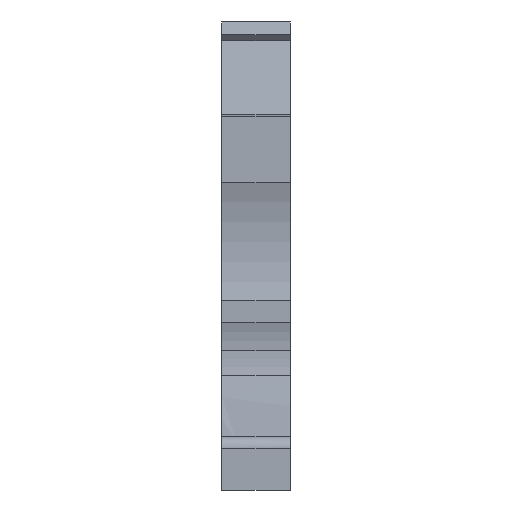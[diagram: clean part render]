
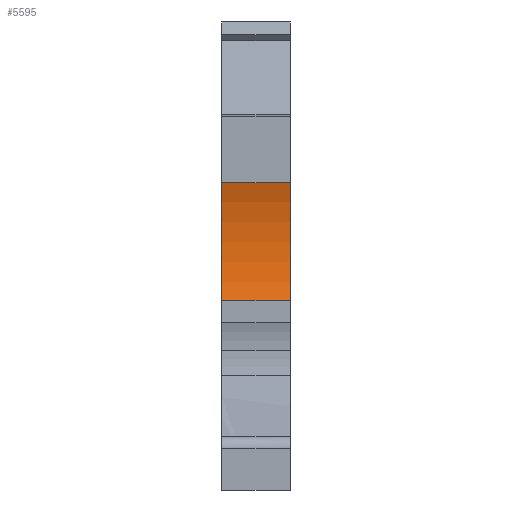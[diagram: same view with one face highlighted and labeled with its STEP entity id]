
A CAD part, left-side view. The second image highlights one B-rep face of the part: STEP entity #5595.
In plain terms, the highlighted cylindrical face has radius 14.5 mm (diameter 29 mm), a partial arc.
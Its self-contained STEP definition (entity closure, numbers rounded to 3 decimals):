
#42=CARTESIAN_POINT('',(-41.5,5.15,8.247));
#43=VERTEX_POINT('',#42);
#50=CARTESIAN_POINT('',(-40.799,5.15,12.7));
#51=VERTEX_POINT('',#50);
#52=CARTESIAN_POINT('',(-55.299,5.15,12.7));
#53=DIRECTION('',(-0.,1.,-0.));
#54=DIRECTION('',(-1.,-0.,0.));
#55=AXIS2_PLACEMENT_3D('',#52,#53,#54);
#56=CIRCLE('',#55,14.5);
#57=EDGE_CURVE('',#51,#43,#56,.T.);
#59=CARTESIAN_POINT('',(-41.5,5.15,17.153));
#60=VERTEX_POINT('',#59);
#61=CARTESIAN_POINT('',(-55.299,5.15,12.7));
#62=DIRECTION('',(-0.,1.,-0.));
#63=DIRECTION('',(-1.,-0.,0.));
#64=AXIS2_PLACEMENT_3D('',#61,#62,#63);
#65=CIRCLE('',#64,14.5);
#66=EDGE_CURVE('',#60,#51,#65,.T.);
#2521=CARTESIAN_POINT('',(-41.5,0.,8.247));
#2522=VERTEX_POINT('',#2521);
#2529=CARTESIAN_POINT('',(-41.5,5.15,8.247));
#2530=DIRECTION('',(-0.,-1.,-0.));
#2531=VECTOR('',#2530,5.15);
#2532=LINE('',#2529,#2531);
#2533=EDGE_CURVE('',#43,#2522,#2532,.T.);
#2864=CARTESIAN_POINT('',(-40.799,0.,12.7));
#2865=VERTEX_POINT('',#2864);
#2866=CARTESIAN_POINT('',(-55.299,0.,12.7));
#2867=DIRECTION('',(-0.,1.,-0.));
#2868=DIRECTION('',(-1.,-0.,0.));
#2869=AXIS2_PLACEMENT_3D('',#2866,#2867,#2868);
#2870=CIRCLE('',#2869,14.5);
#2871=EDGE_CURVE('',#2865,#2522,#2870,.T.);
#3332=CARTESIAN_POINT('',(-41.5,0.,17.153));
#3333=VERTEX_POINT('',#3332);
#3340=CARTESIAN_POINT('',(-55.299,-0.,12.7));
#3341=DIRECTION('',(-0.,1.,-0.));
#3342=DIRECTION('',(-1.,-0.,0.));
#3343=AXIS2_PLACEMENT_3D('',#3340,#3341,#3342);
#3344=CIRCLE('',#3343,14.5);
#3345=EDGE_CURVE('',#3333,#2865,#3344,.T.);
#5577=CARTESIAN_POINT('',(-55.299,-0.515,12.7));
#5578=DIRECTION('',(0.,-1.,0.));
#5579=DIRECTION('',(-1.,-0.,0.));
#5580=AXIS2_PLACEMENT_3D('',#5577,#5578,#5579);
#5581=CYLINDRICAL_SURFACE('',#5580,14.5);
#5582=ORIENTED_EDGE('',*,*,#66,.T.);
#5583=ORIENTED_EDGE('',*,*,#57,.T.);
#5584=ORIENTED_EDGE('',*,*,#2533,.T.);
#5585=ORIENTED_EDGE('',*,*,#2871,.F.);
#5586=ORIENTED_EDGE('',*,*,#3345,.F.);
#5587=CARTESIAN_POINT('',(-41.5,0.,17.153));
#5588=DIRECTION('',(-0.,1.,-0.));
#5589=VECTOR('',#5588,5.15);
#5590=LINE('',#5587,#5589);
#5591=EDGE_CURVE('',#3333,#60,#5590,.T.);
#5592=ORIENTED_EDGE('',*,*,#5591,.T.);
#5593=EDGE_LOOP('',(#5582,#5583,#5584,#5585,#5586,#5592));
#5594=FACE_BOUND('',#5593,.T.);
#5595=ADVANCED_FACE('',(#5594),#5581,.F.);
